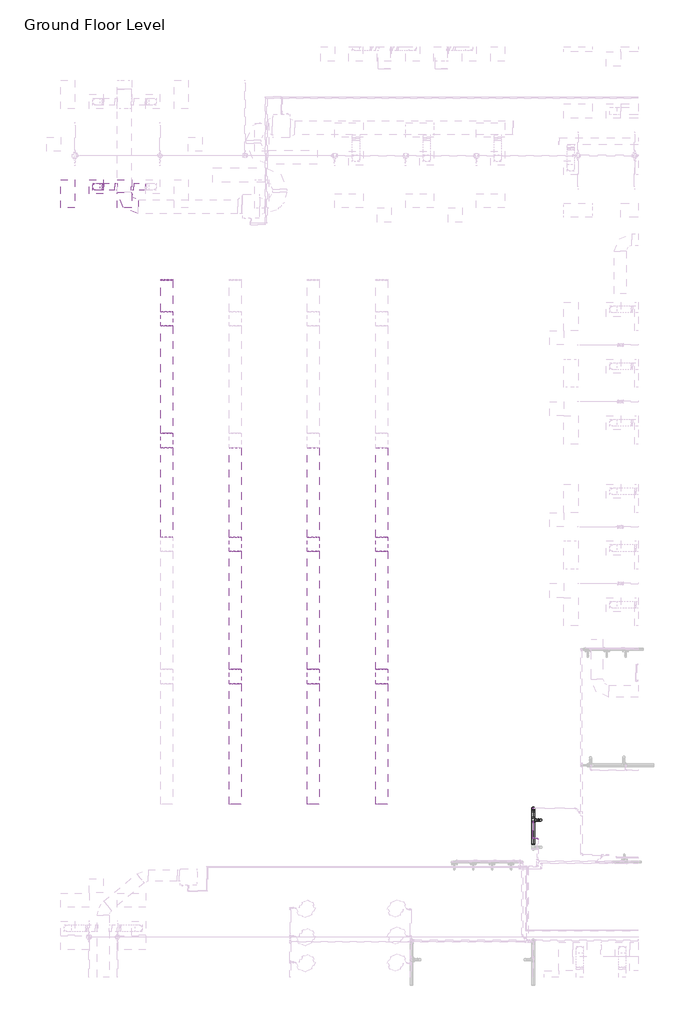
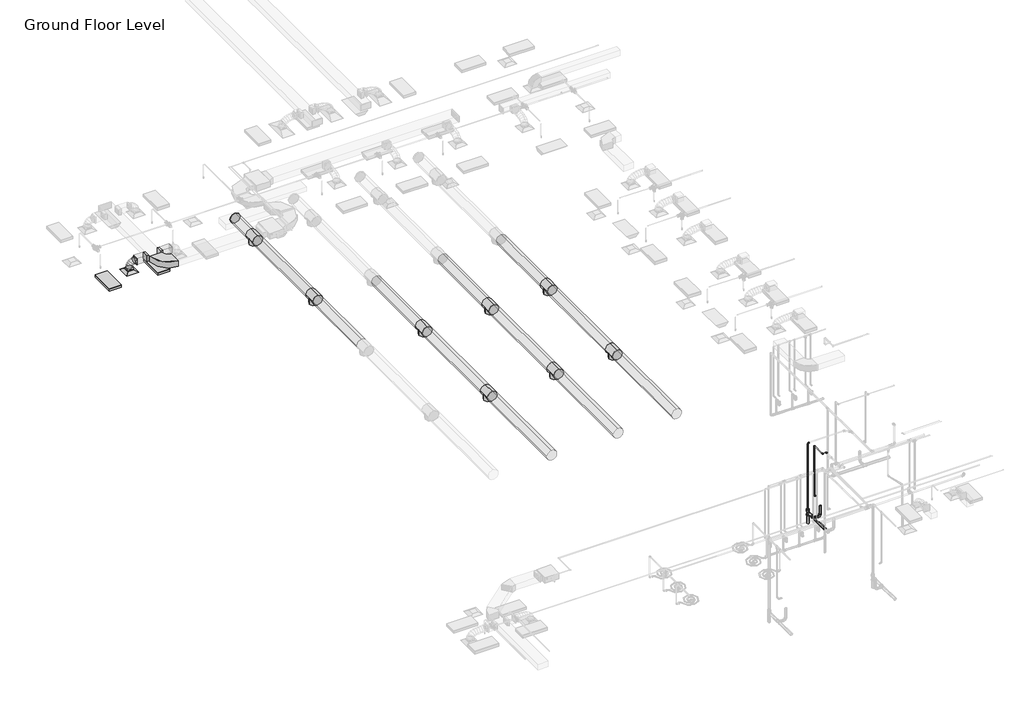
# One storey, part 9 of 74: 15 duct segments, 14 duct fittings, 11 pipe segments, 9 pipe fittings, 2 light fixtures, 1 air terminal.
"""IFC4 building model written with IfcOpenShell, lengths in millimetres."""

from ifc_helpers import new_model, si_unit, point, frame, frame_2d, origin, place, context, project, spatial, polyline, circle_curve, ellipse_curve, trimmed, segment, composite_curve, outline, extrude, transform, mapped, element, save
from ifc_brep_helpers import plane_surface, cylinder_surface, advanced_brep
from components import m_return_diffuser_600_x_600_face_300_x_300_connection_ff221211, m_rectangular_elbow_radius_1_w_c6ed0251, m_rectangular_takeoff_standard_cb0ccb98, m_rectangular_takeoff_standard_2be5eba1, m_rectangular_to_round_transition_angle_45_degree_641efff0, m_round_endcap_standard_1c45c55c, m_round_tee_standard_ed589d36, m_troffer_light_parabolic_rectangular1_0600x1200mm_4_lamp_86473d4a, m_bend_pvc_sch_40_dwv_standard_a4b99d37, m_bend_pvc_sch_40_dwv_standard_aca7b112, m_reducer_pvc_sch_40_dwv_standard_19331f3d, m_tee_reducing_sanitary_pvc_sch_40_dwv_standard_b49161a9, m_tee_reducing_sanitary_pvc_sch_40_dwv_standard_749dcb00, standard_517a5a8d

model = new_model("IFC4")

# Units and contexts
model_context = context("Model", 3, world=origin())
ifc_project = project(units=[si_unit("LENGTHUNIT", "METRE", prefix="MILLI")], contexts=[model_context])

# Site, building, storey
site = spatial("IfcSite", under=ifc_project)
building = spatial("IfcBuilding", under=site)
storey = spatial("IfcBuildingStorey", under=building, Name="Ground Floor Level", Elevation=900.0)

# Air terminal
placement = place(None, origin())
m_return_diffuser_600_x_600_face_300_x_300_connection_shape = m_return_diffuser_600_x_600_face_300_x_300_connection_ff221211(model_context)
element("IfcAirTerminal", 1, ObjectType="M_Supply Diffuser : 600 x 600 Face 300 x 300 Connection", at=placement, inside=storey, context=model_context, shape_type="MappedRepresentation", body=[
    mapped(m_return_diffuser_600_x_600_face_300_x_300_connection_shape, transform((-19137.2327605, -4264.7846466, 3650.0), x_axis=(1.0, 0.0, 0.0), y_axis=(0.0, 1.0, 0.0), z_axis=(0.0, 0.0, 1.0))),
])

# Duct fittings
m_rectangular_elbow_radius_1_w_shape = m_rectangular_elbow_radius_1_w_c6ed0251(model_context)
element("IfcDuctFitting", 2, ObjectType="M_Rectangular Elbow - Radius : 1 W", at=placement, inside=storey, context=model_context, shape_type="MappedRepresentation", body=[
    mapped(m_rectangular_elbow_radius_1_w_shape, transform((-17948.0331707, -5111.2846466, 4099.9999574), x_axis=(0.0, -0.999999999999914, -4.1482844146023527e-07), y_axis=(0.9999999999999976, 0.0, 7.102056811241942e-08), z_axis=(-7.102056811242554e-08, -4.1482844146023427e-07, 0.9999999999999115))),
])
m_rectangular_takeoff_standard_shape = m_rectangular_takeoff_standard_cb0ccb98(model_context)
element("IfcDuctFitting", 3, ObjectType="M_Rectangular Takeoff : Standard", at=placement, inside=storey, context=model_context, shape_type="MappedRepresentation", body=[
    mapped(m_rectangular_takeoff_standard_shape, transform((-18248.0331707, -4264.7846466, 4100.0003085), x_axis=(-1.0, 0.0, 0.0), y_axis=(0.0, 1.0, 0.0), z_axis=(0.0, 0.0, -1.0))),
])
m_rectangular_takeoff_standard_2_shape = m_rectangular_takeoff_standard_2be5eba1(model_context)
element("IfcDuctFitting", 4, ObjectType="M_Rectangular Takeoff : Standard", at=placement, inside=storey, context=model_context, shape_type="MappedRepresentation", body=[
    mapped(m_rectangular_takeoff_standard_2_shape, transform((-17648.0331707, -4264.7846466, 4100.0003085), x_axis=(1.0, 0.0, 0.0), y_axis=(0.0, -1.0, 0.0), z_axis=(0.0, 0.0, -1.0))),
])
m_rectangular_to_round_transition_angle_45_degree_shape = m_rectangular_to_round_transition_angle_45_degree_641efff0(model_context)
element("IfcDuctFitting", 5, ObjectType="M_Rectangular to Round Transition - Angle : 45 Degree", at=placement, inside=storey, context=model_context, shape_type="MappedRepresentation", body=[
    mapped(m_rectangular_to_round_transition_angle_45_degree_shape, transform((-19137.2327605, -4264.7846466, 3751.6), x_axis=(0.0, 0.0, 1.0), y_axis=(-1.0, 0.0, 0.0), z_axis=(0.0, -1.0, 0.0))),
])
element("IfcDuctFitting", 6, ObjectType="M_Rectangular to Round Transition - Angle : 45 Degree", at=placement, inside=storey, context=model_context, shape_type="MappedRepresentation", body=[
    mapped(m_rectangular_to_round_transition_angle_45_degree_shape, transform((-18809.8971378, -4264.7846466, 4100.0003085), x_axis=(-1.0, 0.0, 0.0), y_axis=(0.0, -1.0, 0.0), z_axis=(0.0, 0.0, 1.0))),
])
m_round_endcap_standard_shape = m_round_endcap_standard_1c45c55c(model_context)
element("IfcDuctFitting", 7, ObjectType="M_Round Endcap : Standard", at=placement, inside=storey, context=model_context, shape_type="MappedRepresentation", body=[
    mapped(m_round_endcap_standard_shape, transform((-16150.3527512, -8221.0125677, 7765.9), x_axis=(0.0, 0.9999999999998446, -5.576948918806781e-07), y_axis=(-1.0000000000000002, 0.0, 0.0), z_axis=(0.0, 5.576948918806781e-07, 0.9999999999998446))),
])
m_round_tee_standard_shape = m_round_tee_standard_ed589d36(model_context)
element("IfcDuctFitting", 8, ObjectType="M_Round Tee : Standard", at=placement, inside=storey, context=model_context, shape_type="MappedRepresentation", body=[
    mapped(m_round_tee_standard_shape, transform((-16150.3527512, -9864.7844235, 7765.9009947), x_axis=(0.0, 0.9999999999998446, -5.576948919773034e-07), y_axis=(0.0, 5.576948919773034e-07, 0.9999999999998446), z_axis=(1.0, 0.0, 0.0))),
])
element("IfcDuctFitting", 9, ObjectType="M_Round Tee : Standard", at=placement, inside=storey, context=model_context, shape_type="MappedRepresentation", body=[
    mapped(m_round_tee_standard_shape, transform((-16150.3527512, -15012.784348, 7765.9038657), x_axis=(0.0, 0.9999999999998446, -5.576948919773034e-07), y_axis=(0.0, 5.576948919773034e-07, 0.9999999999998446), z_axis=(1.0, 0.0, 0.0))),
])
element("IfcDuctFitting", 10, ObjectType="M_Round Tee : Standard", at=placement, inside=storey, context=model_context, shape_type="MappedRepresentation", body=[
    mapped(m_round_tee_standard_shape, transform((-13250.3527512, -19404.784563, 7765.9063151), x_axis=(0.0, 0.9999999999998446, -5.576948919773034e-07), y_axis=(0.0, 5.576948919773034e-07, 0.9999999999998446), z_axis=(1.0, 0.0, 0.0))),
])
element("IfcDuctFitting", 11, ObjectType="M_Round Tee : Standard", at=placement, inside=storey, context=model_context, shape_type="MappedRepresentation", body=[
    mapped(m_round_tee_standard_shape, transform((-13250.3527512, -25004.784563, 7765.9094382), x_axis=(0.0, 0.9999999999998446, -5.576948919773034e-07), y_axis=(0.0, 5.576948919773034e-07, 0.9999999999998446), z_axis=(1.0, 0.0, 0.0))),
])
element("IfcDuctFitting", 12, ObjectType="M_Round Tee : Standard", at=placement, inside=storey, context=model_context, shape_type="MappedRepresentation", body=[
    mapped(m_round_tee_standard_shape, transform((-9950.3527512, -19404.784563, 7765.9063151), x_axis=(0.0, 0.9999999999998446, -5.576948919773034e-07), y_axis=(0.0, 5.576948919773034e-07, 0.9999999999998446), z_axis=(1.0, 0.0, 0.0))),
])
element("IfcDuctFitting", 13, ObjectType="M_Round Tee : Standard", at=placement, inside=storey, context=model_context, shape_type="MappedRepresentation", body=[
    mapped(m_round_tee_standard_shape, transform((-9950.3527512, -25004.784563, 7765.9094382), x_axis=(0.0, 0.9999999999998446, -5.576948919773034e-07), y_axis=(0.0, 5.576948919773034e-07, 0.9999999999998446), z_axis=(1.0, 0.0, 0.0))),
])
element("IfcDuctFitting", 14, ObjectType="M_Round Tee : Standard", at=placement, inside=storey, context=model_context, shape_type="MappedRepresentation", body=[
    mapped(m_round_tee_standard_shape, transform((-7050.3527512, -19404.784563, 7765.9063151), x_axis=(0.0, 0.9999999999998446, -5.576948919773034e-07), y_axis=(0.0, 5.576948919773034e-07, 0.9999999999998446), z_axis=(1.0, 0.0, 0.0))),
])
element("IfcDuctFitting", 15, ObjectType="M_Round Tee : Standard", at=placement, inside=storey, context=model_context, shape_type="MappedRepresentation", body=[
    mapped(m_round_tee_standard_shape, transform((-7050.3527512, -25004.784563, 7765.9094382), x_axis=(0.0, 0.9999999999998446, -5.576948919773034e-07), y_axis=(0.0, 5.576948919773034e-07, 0.9999999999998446), z_axis=(1.0, 0.0, 0.0))),
])

# Duct segments
element("IfcDuctSegment", 16, ObjectType="Flex - Round", at=placement, inside=storey, context=model_context, shape_type="AdvancedBrep", body=[
    advanced_brep(
    [(-18987.2327605, -4264.7846466, 3826.6), (-19137.2327605, -4414.7846466, 3826.6), (-19287.2327605, -4264.7846466, 3826.6), (-19137.2327605, -4114.7846466, 3826.6), (-18987.2327605, -4264.7846466, 3832.5806494), (-19137.2327605, -4414.7846466, 3854.3870846), (-19287.2327605, -4264.7846466, 3876.1935198), (-19137.2327605, -4114.7846466, 3854.3870846), (-18983.2864584, -4264.7846466, 3845.866521), (-19122.8954468, -4414.7846466, 3902.6559964), (-19262.5044353, -4264.7846466, 3959.4454718), (-19122.8954468, -4114.7846466, 3902.6559964), (-18960.1038556, -4264.7846466, 3889.9713348), (-19084.1273946, -4414.7846466, 3976.4120685), (-19208.1509336, -4264.7846466, 4062.8528022), (-19084.1273946, -4114.7846466, 3976.4120685), (-18929.3324827, -4264.7846466, 3924.1186367), (-19027.2944369, -4414.7846466, 4039.4801732), (-19125.2563911, -4264.7846466, 4154.8417097), (-19027.2944369, -4114.7846466, 4039.4801732), (-18889.6598286, -4264.7846466, 3949.5853148), (-18958.7624069, -4414.7846466, 4083.4722675), (-19027.8649852, -4264.7846466, 4217.3592203), (-18958.7624069, -4114.7846466, 4083.4722675), (-18888.6275862, -4264.7846466, 3950.0003085), (-18917.6510814, -4414.7846466, 4100.0003085), (-18946.6745767, -4264.7846466, 4250.0003085), (-18917.6510814, -4114.7846466, 4100.0003085), (-18884.8971378, -4264.7846466, 3950.0003085), (-18884.8971378, -4114.7846466, 4100.0003085), (-18884.8971378, -4264.7846466, 4250.0003085), (-18884.8971378, -4414.7846466, 4100.0003085)],
    [
        (0, 1, circle_curve(frame((-19137.2327605, -4264.7846466, 3826.6), z_axis=(0.0, 0.0, -1.0), x_axis=(1.0, 0.0, 0.0)), 150.0)),
        (1, 2, circle_curve(frame((-19137.2327605, -4264.7846466, 3826.6), z_axis=(0.0, 0.0, -1.0), x_axis=(1.0, 0.0, 0.0)), 150.0)),
        (2, 3, circle_curve(frame((-19137.2327605, -4264.7846466, 3826.6), z_axis=(0.0, 0.0, -1.0), x_axis=(1.0, 0.0, 0.0)), 150.0)),
        (3, 0, circle_curve(frame((-19137.2327605, -4264.7846466, 3826.6), z_axis=(0.0, 0.0, -1.0), x_axis=(1.0, 0.0, 0.0)), 150.0)),
        (0, 4),
        (4, 5, ellipse_curve(frame((-19137.2327605, -4264.7846466, 3854.3870846), z_axis=(-0.14386395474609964, 0.0, -0.9895974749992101), x_axis=(0.9895974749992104, 0.0, -0.14386395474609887)), 151.5767813, 150.0)),
        (5, 1),
        (5, 6, ellipse_curve(frame((-19137.2327605, -4264.7846466, 3854.3870846), z_axis=(-0.14386395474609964, 0.0, -0.9895974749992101), x_axis=(0.9895974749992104, 0.0, -0.14386395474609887)), 151.5767813, 150.0)),
        (6, 2),
        (6, 7, ellipse_curve(frame((-19137.2327605, -4264.7846466, 3854.3870846), z_axis=(-0.14386395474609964, 0.0, -0.9895974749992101), x_axis=(0.9895974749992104, 0.0, -0.14386395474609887)), 151.5767813, 150.0)),
        (7, 3),
        (7, 4, ellipse_curve(frame((-19137.2327605, -4264.7846466, 3854.3870846), z_axis=(-0.14386395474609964, 0.0, -0.9895974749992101), x_axis=(0.9895974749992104, 0.0, -0.14386395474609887)), 151.5767813, 150.0)),
        (4, 8),
        (8, 9, ellipse_curve(frame((-19122.8954468, -4264.7846466, 3902.6559964), z_axis=(-0.376794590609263, 0.0, -0.9262968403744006), x_axis=(0.9262968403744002, 0.0, -0.37679459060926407)), 150.717332, 150.0)),
        (9, 5),
        (9, 10, ellipse_curve(frame((-19122.8954468, -4264.7846466, 3902.6559964), z_axis=(-0.376794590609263, 0.0, -0.9262968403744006), x_axis=(0.9262968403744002, 0.0, -0.37679459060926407)), 150.717332, 150.0)),
        (10, 6),
        (10, 11, ellipse_curve(frame((-19122.8954468, -4264.7846466, 3902.6559964), z_axis=(-0.376794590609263, 0.0, -0.9262968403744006), x_axis=(0.9262968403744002, 0.0, -0.37679459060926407)), 150.717332, 150.0)),
        (11, 7),
        (11, 8, ellipse_curve(frame((-19122.8954468, -4264.7846466, 3902.6559964), z_axis=(-0.376794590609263, 0.0, -0.9262968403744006), x_axis=(0.9262968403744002, 0.0, -0.37679459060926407)), 150.717332, 150.0)),
        (8, 12),
        (12, 13, ellipse_curve(frame((-19084.1273946, -4264.7846466, 3976.4120685), z_axis=(-0.5717930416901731, 0.0, -0.8203979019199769), x_axis=(0.8203979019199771, 0.0, -0.5717930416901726)), 151.1748612, 150.0)),
        (13, 9),
        (13, 14, ellipse_curve(frame((-19084.1273946, -4264.7846466, 3976.4120685), z_axis=(-0.5717930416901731, 0.0, -0.8203979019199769), x_axis=(0.8203979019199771, 0.0, -0.5717930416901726)), 151.1748612, 150.0)),
        (14, 10),
        (14, 15, ellipse_curve(frame((-19084.1273946, -4264.7846466, 3976.4120685), z_axis=(-0.5717930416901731, 0.0, -0.8203979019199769), x_axis=(0.8203979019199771, 0.0, -0.5717930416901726)), 151.1748612, 150.0)),
        (15, 11),
        (15, 12, ellipse_curve(frame((-19084.1273946, -4264.7846466, 3976.4120685), z_axis=(-0.5717930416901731, 0.0, -0.8203979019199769), x_axis=(0.8203979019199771, 0.0, -0.5717930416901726)), 151.1748612, 150.0)),
        (12, 16),
        (16, 17, ellipse_curve(frame((-19027.2944369, -4264.7846466, 4039.4801732), z_axis=(-0.7622501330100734, 0.0, -0.6472825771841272), x_axis=(0.6472825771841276, 0.0, -0.7622501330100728)), 151.3434127, 150.0)),
        (17, 13),
        (17, 18, ellipse_curve(frame((-19027.2944369, -4264.7846466, 4039.4801732), z_axis=(-0.7622501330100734, 0.0, -0.6472825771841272), x_axis=(0.6472825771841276, 0.0, -0.7622501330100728)), 151.3434127, 150.0)),
        (18, 14),
        (18, 19, ellipse_curve(frame((-19027.2944369, -4264.7846466, 4039.4801732), z_axis=(-0.7622501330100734, 0.0, -0.6472825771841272), x_axis=(0.6472825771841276, 0.0, -0.7622501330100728)), 151.3434127, 150.0)),
        (19, 15),
        (19, 16, ellipse_curve(frame((-19027.2944369, -4264.7846466, 4039.4801732), z_axis=(-0.7622501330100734, 0.0, -0.6472825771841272), x_axis=(0.6472825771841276, 0.0, -0.7622501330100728)), 151.3434127, 150.0)),
        (16, 20),
        (20, 21, ellipse_curve(frame((-18958.7624069, -4264.7846466, 4083.4722675), z_axis=(-0.8886216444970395, 0.0, -0.45864100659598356), x_axis=(0.45864100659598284, 0.0, -0.88862164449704)), 150.6681202, 150.0)),
        (21, 17),
        (21, 22, ellipse_curve(frame((-18958.7624069, -4264.7846466, 4083.4722675), z_axis=(-0.8886216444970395, 0.0, -0.45864100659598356), x_axis=(0.45864100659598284, 0.0, -0.88862164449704)), 150.6681202, 150.0)),
        (22, 18),
        (22, 23, ellipse_curve(frame((-18958.7624069, -4264.7846466, 4083.4722675), z_axis=(-0.8886216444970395, 0.0, -0.45864100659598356), x_axis=(0.45864100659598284, 0.0, -0.88862164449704)), 150.6681202, 150.0)),
        (23, 19),
        (23, 20, ellipse_curve(frame((-18958.7624069, -4264.7846466, 4083.4722675), z_axis=(-0.8886216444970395, 0.0, -0.45864100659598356), x_axis=(0.45864100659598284, 0.0, -0.88862164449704)), 150.6681202, 150.0)),
        (20, 24),
        (24, 25, ellipse_curve(frame((-18917.6510814, -4264.7846466, 4100.0003085), z_axis=(-0.9817905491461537, 0.0, -0.18996662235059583), x_axis=(0.18996662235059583, 0.0, -0.9817905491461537)), 152.7820777, 150.0)),
        (25, 21),
        (25, 26, ellipse_curve(frame((-18917.6510814, -4264.7846466, 4100.0003085), z_axis=(-0.9817905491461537, 0.0, -0.18996662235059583), x_axis=(0.18996662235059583, 0.0, -0.9817905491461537)), 152.7820777, 150.0)),
        (26, 22),
        (26, 27, ellipse_curve(frame((-18917.6510814, -4264.7846466, 4100.0003085), z_axis=(-0.9817905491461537, 0.0, -0.18996662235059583), x_axis=(0.18996662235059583, 0.0, -0.9817905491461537)), 152.7820777, 150.0)),
        (27, 23),
        (27, 24, ellipse_curve(frame((-18917.6510814, -4264.7846466, 4100.0003085), z_axis=(-0.9817905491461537, 0.0, -0.18996662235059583), x_axis=(0.18996662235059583, 0.0, -0.9817905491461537)), 152.7820777, 150.0)),
        (28, 29, circle_curve(frame((-18884.8971378, -4264.7846466, 4100.0003085), z_axis=(1.0, 0.0, 0.0), x_axis=(0.0, 0.0, -1.0)), 150.0)),
        (29, 30, circle_curve(frame((-18884.8971378, -4264.7846466, 4100.0003085), z_axis=(1.0, 0.0, 0.0), x_axis=(0.0, 0.0, -1.0)), 150.0)),
        (30, 31, circle_curve(frame((-18884.8971378, -4264.7846466, 4100.0003085), z_axis=(1.0, 0.0, 0.0), x_axis=(0.0, 0.0, -1.0)), 150.0)),
        (31, 28, circle_curve(frame((-18884.8971378, -4264.7846466, 4100.0003085), z_axis=(1.0, 0.0, 0.0), x_axis=(0.0, 0.0, -1.0)), 150.0)),
        (24, 28),
        (31, 25),
        (30, 26),
        (29, 27),
    ],
    [
        plane_surface(frame((-19137.2327605, -4414.7846466, 3826.6), z_axis=(0.0, 0.0, -1.0), x_axis=(1.0, 0.0, 0.0))),
        cylinder_surface(frame((-19137.2327605, -4264.7846466, 3826.6), z_axis=(0.0, 0.0, -1.0), x_axis=(1.0, 0.0, 0.0)), 150.0),
        cylinder_surface(frame((-19137.2327605, -4264.7846466, 3854.3870846), z_axis=(-0.28473481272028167, 0.0, -0.9586063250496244), x_axis=(0.9586063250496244, 0.0, -0.28473481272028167)), 150.0),
        cylinder_surface(frame((-19122.8954468, -4264.7846466, 3902.6559964), z_axis=(-0.4652676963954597, 0.0, -0.8851700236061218), x_axis=(0.8851700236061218, 0.0, -0.4652676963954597)), 150.0),
        cylinder_surface(frame((-19084.1273946, -4264.7846466, 3976.4120685), z_axis=(-0.6694309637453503, 0.0, -0.7428742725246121), x_axis=(0.7428742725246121, 0.0, -0.6694309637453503)), 150.0),
        cylinder_surface(frame((-19027.2944369, -4264.7846466, 4039.4801732), z_axis=(-0.8415369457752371, 0.0, -0.5401995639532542), x_axis=(0.5401995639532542, 0.0, -0.8415369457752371)), 150.0),
        cylinder_surface(frame((-18958.7624069, -4264.7846466, 4083.4722675), z_axis=(-0.9278253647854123, 0.0, -0.37301486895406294), x_axis=(0.37301486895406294, 0.0, -0.9278253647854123)), 150.0),
        plane_surface(frame((-18884.8971378, -4264.7846466, 3950.0003085), z_axis=(1.0, 0.0, 0.0), x_axis=(0.0, 1.0, 0.0))),
        cylinder_surface(frame((-18917.6510814, -4264.7846466, 4100.0003085), z_axis=(-1.0, 0.0, 0.0), x_axis=(0.0, 0.0, -1.0)), 150.0),
    ],
    [
        (0, [[1, 2, 3, 4]]),
        (1, [[-1, 5, 6, 7]]),
        (1, [[-2, -7, 8, 9]]),
        (1, [[-3, -9, 10, 11]]),
        (1, [[-4, -11, 12, -5]]),
        (2, [[-6, 13, 14, 15]]),
        (2, [[-8, -15, 16, 17]]),
        (2, [[-10, -17, 18, 19]]),
        (2, [[-12, -19, 20, -13]]),
        (3, [[-14, 21, 22, 23]]),
        (3, [[-16, -23, 24, 25]]),
        (3, [[-18, -25, 26, 27]]),
        (3, [[-20, -27, 28, -21]]),
        (4, [[-22, 29, 30, 31]]),
        (4, [[-24, -31, 32, 33]]),
        (4, [[-26, -33, 34, 35]]),
        (4, [[-28, -35, 36, -29]]),
        (5, [[-30, 37, 38, 39]]),
        (5, [[-32, -39, 40, 41]]),
        (5, [[-34, -41, 42, 43]]),
        (5, [[-36, -43, 44, -37]]),
        (6, [[-38, 45, 46, 47]]),
        (6, [[-40, -47, 48, 49]]),
        (6, [[-42, -49, 50, 51]]),
        (6, [[-44, -51, 52, -45]]),
        (7, [[53, 54, 55, 56]]),
        (8, [[-46, 57, -56, 58]]),
        (8, [[-48, -58, -55, 59]]),
        (8, [[-50, -59, -54, 60]]),
        (8, [[-52, -60, -53, -57]]),
    ],
),
])
element("IfcDuctSegment", 17, ObjectType="Radius Elbows / Taps", at=placement, inside=storey, context=model_context, shape_type="SweptSolid", body=[
    extrude(outline(polyline([(-17546.4331707, -4414.7846466), (-17546.4331707, -4114.7846466), (-17064.5683833, -4114.7846466), (-17064.5683833, -4414.7846466), (-17546.4331707, -4414.7846466)])), frame((0.0, 0.0, 3950.0003085), z_axis=(0.0, 0.0, 1.0), x_axis=(1.0, 0.0, 0.0)), (0.0, 0.0, 1.0), 300.0),
])
element("IfcDuctSegment", 18, ObjectType="Radius Elbows / Taps", at=placement, inside=storey, context=model_context, shape_type="SweptSolid", body=[
    extrude(outline(polyline([(-18349.6331707, -4114.7846466), (-18349.6331707, -4414.7846466), (-18809.8971378, -4414.7846466), (-18809.8971378, -4114.7846466), (-18349.6331707, -4114.7846466)])), frame((0.0, 0.0, 3950.0003085), z_axis=(0.0, 0.0, 1.0), x_axis=(1.0, 0.0, 0.0)), (0.0, 0.0, 1.0), 300.0),
])
element("IfcDuctSegment", 19, ObjectType="Tees", at=placement, inside=storey, context=model_context, shape_type="SweptSolid", body=[
    extrude(outline(composite_curve([segment(trimmed(circle_curve(frame_2d((7765.9008274, -16150.3527512)), 250.0), [point((7765.9008274, -16400.3527512))], [point((7515.9008274, -16150.3527512))], False, "CARTESIAN"), True, "CONTINUOUS"), segment(trimmed(circle_curve(frame_2d((7765.9008274, -16150.3527512)), 250.0), [point((7515.9008274, -16150.3527512))], [point((7765.9008274, -15900.3527512))], False, "CARTESIAN"), True, "CONTINUOUS"), segment(trimmed(circle_curve(frame_2d((7765.9008274, -16150.3527512)), 250.0), [point((7765.9008274, -15900.3527512))], [point((8015.9008274, -16150.3527512))], False, "CARTESIAN"), True, "CONTINUOUS"), segment(trimmed(circle_curve(frame_2d((7765.9008274, -16150.3527512)), 250.0), [point((8015.9008274, -16150.3527512))], [point((7765.9008274, -16400.3527512))], False, "CARTESIAN"), True, "CONTINUOUS")], self_intersect=False)), frame((0.0, -9564.7844235, 0.0), z_axis=(0.0, 1.0, 0.0), x_axis=(0.0, 0.0, 1.0)), (0.0, 0.0, 1.0), 1343.7718558),
])
element("IfcDuctSegment", 20, ObjectType="Tees", at=placement, inside=storey, context=model_context, shape_type="SweptSolid", body=[
    extrude(outline(composite_curve([segment(trimmed(circle_curve(frame_2d((7765.901162, -16150.3527512)), 250.0), [point((7765.901162, -16400.3527512))], [point((7515.901162, -16150.3527512))], False, "CARTESIAN"), True, "CONTINUOUS"), segment(trimmed(circle_curve(frame_2d((7765.901162, -16150.3527512)), 250.0), [point((7515.901162, -16150.3527512))], [point((7765.901162, -15900.3527512))], False, "CARTESIAN"), True, "CONTINUOUS"), segment(trimmed(circle_curve(frame_2d((7765.901162, -16150.3527512)), 250.0), [point((7765.901162, -15900.3527512))], [point((8015.901162, -16150.3527512))], False, "CARTESIAN"), True, "CONTINUOUS"), segment(trimmed(circle_curve(frame_2d((7765.901162, -16150.3527512)), 250.0), [point((8015.901162, -16150.3527512))], [point((7765.901162, -16400.3527512))], False, "CARTESIAN"), True, "CONTINUOUS")], self_intersect=False)), frame((0.0, -14712.784348, 0.0), z_axis=(0.0, 1.0, 0.0), x_axis=(0.0, 0.0, 1.0)), (0.0, 0.0, 1.0), 4547.9999245),
])
element("IfcDuctSegment", 21, ObjectType="Tees", at=placement, inside=storey, context=model_context, shape_type="SweptSolid", body=[
    extrude(outline(composite_curve([segment(trimmed(circle_curve(frame_2d((7765.9061478, -16150.3527512)), 250.0), [point((7765.9061478, -15900.3527512))], [point((8015.9061478, -16150.3527512))], False, "CARTESIAN"), True, "CONTINUOUS"), segment(trimmed(circle_curve(frame_2d((7765.9061478, -16150.3527512)), 250.0), [point((8015.9061478, -16150.3527512))], [point((7765.9061478, -16400.3527512))], False, "CARTESIAN"), True, "CONTINUOUS"), segment(trimmed(circle_curve(frame_2d((7765.9061478, -16150.3527512)), 250.0), [point((7765.9061478, -16400.3527512))], [point((7515.9061478, -16150.3527512))], False, "CARTESIAN"), True, "CONTINUOUS"), segment(trimmed(circle_curve(frame_2d((7765.9061478, -16150.3527512)), 250.0), [point((7515.9061478, -16150.3527512))], [point((7765.9061478, -15900.3527512))], False, "CARTESIAN"), True, "CONTINUOUS")], self_intersect=False)), frame((0.0, -19104.784563, 0.0), z_axis=(0.0, 1.0, 0.0), x_axis=(0.0, 0.0, 1.0)), (0.0, 0.0, 1.0), 3792.000215),
])
element("IfcDuctSegment", 22, ObjectType="Tees", at=placement, inside=storey, context=model_context, shape_type="SweptSolid", body=[
    extrude(outline(composite_curve([segment(trimmed(circle_curve(frame_2d((7765.9061478, -13250.3527512)), 250.0), [point((7765.9061478, -13000.3527512))], [point((8015.9061478, -13250.3527512))], False, "CARTESIAN"), True, "CONTINUOUS"), segment(trimmed(circle_curve(frame_2d((7765.9061478, -13250.3527512)), 250.0), [point((8015.9061478, -13250.3527512))], [point((7765.9061478, -13500.3527512))], False, "CARTESIAN"), True, "CONTINUOUS"), segment(trimmed(circle_curve(frame_2d((7765.9061478, -13250.3527512)), 250.0), [point((7765.9061478, -13500.3527512))], [point((7515.9061478, -13250.3527512))], False, "CARTESIAN"), True, "CONTINUOUS"), segment(trimmed(circle_curve(frame_2d((7765.9061478, -13250.3527512)), 250.0), [point((7515.9061478, -13250.3527512))], [point((7765.9061478, -13000.3527512))], False, "CARTESIAN"), True, "CONTINUOUS")], self_intersect=False)), frame((0.0, -19104.784563, 0.0), z_axis=(0.0, 1.0, 0.0), x_axis=(0.0, 0.0, 1.0)), (0.0, 0.0, 1.0), 3792.000215),
])
element("IfcDuctSegment", 23, ObjectType="Tees", at=placement, inside=storey, context=model_context, shape_type="SweptSolid", body=[
    extrude(outline(composite_curve([segment(trimmed(circle_curve(frame_2d((7765.9092709, -13250.3527512)), 250.0), [point((7765.9092709, -13000.3527512))], [point((8015.9092709, -13250.3527512))], False, "CARTESIAN"), True, "CONTINUOUS"), segment(trimmed(circle_curve(frame_2d((7765.9092709, -13250.3527512)), 250.0), [point((8015.9092709, -13250.3527512))], [point((7765.9092709, -13500.3527512))], False, "CARTESIAN"), True, "CONTINUOUS"), segment(trimmed(circle_curve(frame_2d((7765.9092709, -13250.3527512)), 250.0), [point((7765.9092709, -13500.3527512))], [point((7515.9092709, -13250.3527512))], False, "CARTESIAN"), True, "CONTINUOUS"), segment(trimmed(circle_curve(frame_2d((7765.9092709, -13250.3527512)), 250.0), [point((7515.9092709, -13250.3527512))], [point((7765.9092709, -13000.3527512))], False, "CARTESIAN"), True, "CONTINUOUS")], self_intersect=False)), frame((0.0, -24704.784563, 0.0), z_axis=(0.0, 1.0, 0.0), x_axis=(0.0, 0.0, 1.0)), (0.0, 0.0, 1.0), 5000.0),
])
element("IfcDuctSegment", 24, ObjectType="Tees", at=placement, inside=storey, context=model_context, shape_type="SweptSolid", body=[
    extrude(outline(composite_curve([segment(trimmed(circle_curve(frame_2d((7765.9125, -13250.3527512)), 250.0), [point((7765.9125, -13000.3527512))], [point((8015.9125, -13250.3527512))], False, "CARTESIAN"), True, "CONTINUOUS"), segment(trimmed(circle_curve(frame_2d((7765.9125, -13250.3527512)), 250.0), [point((8015.9125, -13250.3527512))], [point((7765.9125, -13500.3527512))], False, "CARTESIAN"), True, "CONTINUOUS"), segment(trimmed(circle_curve(frame_2d((7765.9125, -13250.3527512)), 250.0), [point((7765.9125, -13500.3527512))], [point((7515.9125, -13250.3527512))], False, "CARTESIAN"), True, "CONTINUOUS"), segment(trimmed(circle_curve(frame_2d((7765.9125, -13250.3527512)), 250.0), [point((7515.9125, -13250.3527512))], [point((7765.9125, -13000.3527512))], False, "CARTESIAN"), True, "CONTINUOUS")], self_intersect=False)), frame((0.0, -30422.0587669, 0.0), z_axis=(0.0, 1.0, 0.0), x_axis=(0.0, 0.0, 1.0)), (0.0, 0.0, 1.0), 5117.2742039),
])
element("IfcDuctSegment", 25, ObjectType="Tees", at=placement, inside=storey, context=model_context, shape_type="SweptSolid", body=[
    extrude(outline(composite_curve([segment(trimmed(circle_curve(frame_2d((7765.9061478, -9950.3527512)), 250.0), [point((7765.9061478, -9700.3527512))], [point((8015.9061478, -9950.3527512))], False, "CARTESIAN"), True, "CONTINUOUS"), segment(trimmed(circle_curve(frame_2d((7765.9061478, -9950.3527512)), 250.0), [point((8015.9061478, -9950.3527512))], [point((7765.9061478, -10200.3527512))], False, "CARTESIAN"), True, "CONTINUOUS"), segment(trimmed(circle_curve(frame_2d((7765.9061478, -9950.3527512)), 250.0), [point((7765.9061478, -10200.3527512))], [point((7515.9061478, -9950.3527512))], False, "CARTESIAN"), True, "CONTINUOUS"), segment(trimmed(circle_curve(frame_2d((7765.9061478, -9950.3527512)), 250.0), [point((7515.9061478, -9950.3527512))], [point((7765.9061478, -9700.3527512))], False, "CARTESIAN"), True, "CONTINUOUS")], self_intersect=False)), frame((0.0, -19104.784563, 0.0), z_axis=(0.0, 1.0, 0.0), x_axis=(0.0, 0.0, 1.0)), (0.0, 0.0, 1.0), 3792.000215),
])
element("IfcDuctSegment", 26, ObjectType="Tees", at=placement, inside=storey, context=model_context, shape_type="SweptSolid", body=[
    extrude(outline(composite_curve([segment(trimmed(circle_curve(frame_2d((7765.9092709, -9950.3527512)), 250.0), [point((7765.9092709, -9700.3527512))], [point((8015.9092709, -9950.3527512))], False, "CARTESIAN"), True, "CONTINUOUS"), segment(trimmed(circle_curve(frame_2d((7765.9092709, -9950.3527512)), 250.0), [point((8015.9092709, -9950.3527512))], [point((7765.9092709, -10200.3527512))], False, "CARTESIAN"), True, "CONTINUOUS"), segment(trimmed(circle_curve(frame_2d((7765.9092709, -9950.3527512)), 250.0), [point((7765.9092709, -10200.3527512))], [point((7515.9092709, -9950.3527512))], False, "CARTESIAN"), True, "CONTINUOUS"), segment(trimmed(circle_curve(frame_2d((7765.9092709, -9950.3527512)), 250.0), [point((7515.9092709, -9950.3527512))], [point((7765.9092709, -9700.3527512))], False, "CARTESIAN"), True, "CONTINUOUS")], self_intersect=False)), frame((0.0, -24704.784563, 0.0), z_axis=(0.0, 1.0, 0.0), x_axis=(0.0, 0.0, 1.0)), (0.0, 0.0, 1.0), 5000.0),
])
element("IfcDuctSegment", 27, ObjectType="Tees", at=placement, inside=storey, context=model_context, shape_type="SweptSolid", body=[
    extrude(outline(composite_curve([segment(trimmed(circle_curve(frame_2d((7765.9125, -9950.3527512)), 250.0), [point((7765.9125, -9700.3527512))], [point((8015.9125, -9950.3527512))], False, "CARTESIAN"), True, "CONTINUOUS"), segment(trimmed(circle_curve(frame_2d((7765.9125, -9950.3527512)), 250.0), [point((8015.9125, -9950.3527512))], [point((7765.9125, -10200.3527512))], False, "CARTESIAN"), True, "CONTINUOUS"), segment(trimmed(circle_curve(frame_2d((7765.9125, -9950.3527512)), 250.0), [point((7765.9125, -10200.3527512))], [point((7515.9125, -9950.3527512))], False, "CARTESIAN"), True, "CONTINUOUS"), segment(trimmed(circle_curve(frame_2d((7765.9125, -9950.3527512)), 250.0), [point((7515.9125, -9950.3527512))], [point((7765.9125, -9700.3527512))], False, "CARTESIAN"), True, "CONTINUOUS")], self_intersect=False)), frame((0.0, -30422.0587669, 0.0), z_axis=(0.0, 1.0, 0.0), x_axis=(0.0, 0.0, 1.0)), (0.0, 0.0, 1.0), 5117.2742039),
])
element("IfcDuctSegment", 28, ObjectType="Tees", at=placement, inside=storey, context=model_context, shape_type="SweptSolid", body=[
    extrude(outline(composite_curve([segment(trimmed(circle_curve(frame_2d((7765.9061478, -7050.3527512)), 250.0), [point((7765.9061478, -6800.3527512))], [point((8015.9061478, -7050.3527512))], False, "CARTESIAN"), True, "CONTINUOUS"), segment(trimmed(circle_curve(frame_2d((7765.9061478, -7050.3527512)), 250.0), [point((8015.9061478, -7050.3527512))], [point((7765.9061478, -7300.3527512))], False, "CARTESIAN"), True, "CONTINUOUS"), segment(trimmed(circle_curve(frame_2d((7765.9061478, -7050.3527512)), 250.0), [point((7765.9061478, -7300.3527512))], [point((7515.9061478, -7050.3527512))], False, "CARTESIAN"), True, "CONTINUOUS"), segment(trimmed(circle_curve(frame_2d((7765.9061478, -7050.3527512)), 250.0), [point((7515.9061478, -7050.3527512))], [point((7765.9061478, -6800.3527512))], False, "CARTESIAN"), True, "CONTINUOUS")], self_intersect=False)), frame((0.0, -19104.784563, 0.0), z_axis=(0.0, 1.0, 0.0), x_axis=(0.0, 0.0, 1.0)), (0.0, 0.0, 1.0), 3792.000215),
])
element("IfcDuctSegment", 29, ObjectType="Tees", at=placement, inside=storey, context=model_context, shape_type="SweptSolid", body=[
    extrude(outline(composite_curve([segment(trimmed(circle_curve(frame_2d((7765.9092709, -7050.3527512)), 250.0), [point((7765.9092709, -6800.3527512))], [point((8015.9092709, -7050.3527512))], False, "CARTESIAN"), True, "CONTINUOUS"), segment(trimmed(circle_curve(frame_2d((7765.9092709, -7050.3527512)), 250.0), [point((8015.9092709, -7050.3527512))], [point((7765.9092709, -7300.3527512))], False, "CARTESIAN"), True, "CONTINUOUS"), segment(trimmed(circle_curve(frame_2d((7765.9092709, -7050.3527512)), 250.0), [point((7765.9092709, -7300.3527512))], [point((7515.9092709, -7050.3527512))], False, "CARTESIAN"), True, "CONTINUOUS"), segment(trimmed(circle_curve(frame_2d((7765.9092709, -7050.3527512)), 250.0), [point((7515.9092709, -7050.3527512))], [point((7765.9092709, -6800.3527512))], False, "CARTESIAN"), True, "CONTINUOUS")], self_intersect=False)), frame((0.0, -24704.784563, 0.0), z_axis=(0.0, 1.0, 0.0), x_axis=(0.0, 0.0, 1.0)), (0.0, 0.0, 1.0), 5000.0),
])
element("IfcDuctSegment", 30, ObjectType="Tees", at=placement, inside=storey, context=model_context, shape_type="SweptSolid", body=[
    extrude(outline(composite_curve([segment(trimmed(circle_curve(frame_2d((7765.9125, -7050.3527512)), 250.0), [point((7765.9125, -6800.3527512))], [point((8015.9125, -7050.3527512))], False, "CARTESIAN"), True, "CONTINUOUS"), segment(trimmed(circle_curve(frame_2d((7765.9125, -7050.3527512)), 250.0), [point((8015.9125, -7050.3527512))], [point((7765.9125, -7300.3527512))], False, "CARTESIAN"), True, "CONTINUOUS"), segment(trimmed(circle_curve(frame_2d((7765.9125, -7050.3527512)), 250.0), [point((7765.9125, -7300.3527512))], [point((7515.9125, -7050.3527512))], False, "CARTESIAN"), True, "CONTINUOUS"), segment(trimmed(circle_curve(frame_2d((7765.9125, -7050.3527512)), 250.0), [point((7515.9125, -7050.3527512))], [point((7765.9125, -6800.3527512))], False, "CARTESIAN"), True, "CONTINUOUS")], self_intersect=False)), frame((0.0, -30422.0587669, 0.0), z_axis=(0.0, 1.0, 0.0), x_axis=(0.0, 0.0, 1.0)), (0.0, 0.0, 1.0), 5117.2742039),
])

# Light fixtures
m_troffer_light_parabolic_rectangular1_0600x1200mm_4_lamp_shape = m_troffer_light_parabolic_rectangular1_0600x1200mm_4_lamp_86473d4a(model_context)
element("IfcLightFixture", 31, ObjectType="M_Troffer Light - Parabolic Rectangular1 : 0600x1200mm(4 Lamp) - 277V 2", at=placement, inside=storey, context=model_context, shape_type="MappedRepresentation", body=[
    mapped(m_troffer_light_parabolic_rectangular1_0600x1200mm_4_lamp_shape, transform((-20396.6986926, -4546.081145, 3650.0), x_axis=(0.0, 1.0, 0.0), y_axis=(-1.0, 0.0, 0.0), z_axis=(0.0, 0.0, 1.0))),
])
element("IfcLightFixture", 32, ObjectType="M_Troffer Light - Parabolic Rectangular1 : 0600x1200mm(4 Lamp) - 277V 2", at=placement, inside=storey, context=model_context, shape_type="MappedRepresentation", body=[
    mapped(m_troffer_light_parabolic_rectangular1_0600x1200mm_4_lamp_shape, transform((-17996.6986926, -4546.081145, 3650.0), x_axis=(0.0, 1.0, 0.0), y_axis=(-1.0, 0.0, 0.0), z_axis=(0.0, 0.0, 1.0))),
])

# Pipe fittings
m_bend_pvc_sch_40_dwv_standard_shape = m_bend_pvc_sch_40_dwv_standard_a4b99d37(model_context)
element("IfcPipeFitting", 33, ObjectType="M_Bend - PVC - Sch 40 - DWV : Standard", at=placement, inside=storey, context=model_context, shape_type="MappedRepresentation", body=[
    mapped(m_bend_pvc_sch_40_dwv_standard_shape, transform((-313.6900632, -31081.5465789, 464.3982101), x_axis=(0.0, 0.0, -1.0), y_axis=(-1.0, 0.0, 0.0), z_axis=(0.0, 1.0, 0.0))),
])
m_bend_pvc_sch_40_dwv_standard_2_shape = m_bend_pvc_sch_40_dwv_standard_aca7b112(model_context)
element("IfcPipeFitting", 34, ObjectType="M_Bend - PVC - Sch 40 - DWV : Standard", at=placement, inside=storey, context=model_context, shape_type="MappedRepresentation", body=[
    mapped(m_bend_pvc_sch_40_dwv_standard_2_shape, transform((-633.5363684, -30581.7541446, 4084.0463877), x_axis=(0.0, 0.0, 1.0), y_axis=(1.0, 0.0, 0.0), z_axis=(0.0, 1.0, 0.0))),
])
m_reducer_pvc_sch_40_dwv_standard_shape = m_reducer_pvc_sch_40_dwv_standard_19331f3d(model_context)
element("IfcPipeFitting", 35, ObjectType="M_Reducer - PVC - Sch 40 - DWV : Standard", at=placement, inside=storey, context=model_context, shape_type="MappedRepresentation", body=[
    mapped(m_reducer_pvc_sch_40_dwv_standard_shape, transform((-633.5600391, -30581.725568, 578.5642409), x_axis=(0.0, 0.0, 1.0), y_axis=(0.0, 1.0, 0.0), z_axis=(-1.0, 0.0, 0.0))),
])
m_tee_reducing_sanitary_pvc_sch_40_dwv_standard_shape = m_tee_reducing_sanitary_pvc_sch_40_dwv_standard_b49161a9(model_context)
element("IfcPipeFitting", 36, ObjectType="M_Tee Reducing Sanitary - PVC - Sch 40 - DWV : Standard", at=placement, inside=storey, context=model_context, shape_type="MappedRepresentation", body=[
    mapped(m_tee_reducing_sanitary_pvc_sch_40_dwv_standard_shape, transform((-633.5600391, -31081.5465789, 464.3982101), x_axis=(0.0, -0.9999500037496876, 0.009999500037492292), y_axis=(-1.0, 0.0, 0.0), z_axis=(0.0, -0.009999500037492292, -0.9999500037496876))),
])
m_tee_reducing_sanitary_pvc_sch_40_dwv_standard_2_shape = m_tee_reducing_sanitary_pvc_sch_40_dwv_standard_749dcb00(model_context)
element("IfcPipeFitting", 37, ObjectType="M_Tee Reducing Sanitary - PVC - Sch 40 - DWV : Standard", at=placement, inside=storey, context=model_context, shape_type="MappedRepresentation", body=[
    mapped(m_tee_reducing_sanitary_pvc_sch_40_dwv_standard_2_shape, transform((-633.5600391, -30581.725568, 459.4), x_axis=(0.0, 0.0, 1.0), y_axis=(0.0, 1.0, 0.0), z_axis=(-1.0, 0.0, 0.0))),
])
standard_shape = standard_517a5a8d(model_context)
element("IfcPipeFitting", 38, ObjectType="M_Elbow - CPVC - Sch 40 : Standard", at=placement, inside=storey, context=model_context, shape_type="MappedRepresentation", body=[
    mapped(standard_shape, transform((-647.2327605, -31154.9853451, 1655.0), x_axis=(-1.0, 0.0, 0.0), y_axis=(0.0, 0.0, 1.0), z_axis=(0.0, 1.0, 0.0))),
])
element("IfcPipeFitting", 39, ObjectType="M_Elbow - CPVC - Sch 40 : Standard", at=placement, inside=storey, context=model_context, shape_type="MappedRepresentation", body=[
    mapped(standard_shape, transform((-647.2327605, -31154.9853451, 4300.0), x_axis=(0.0, 0.0, 1.0), y_axis=(0.0, -1.0, 0.0), z_axis=(1.0, 0.0, 0.0))),
])
element("IfcPipeFitting", 40, ObjectType="M_Elbow - CPVC - Sch 40 : Standard", at=placement, inside=storey, context=model_context, shape_type="MappedRepresentation", body=[
    mapped(standard_shape, transform((-647.2327605, -31854.9853451, 4300.0), x_axis=(0.0, -1.0, 0.0), y_axis=(1.0, 0.0, 0.0), z_axis=(0.0, 0.0, 1.0))),
])
element("IfcPipeFitting", 41, ObjectType="M_Elbow - CPVC - Sch 40 : Standard", at=placement, inside=storey, context=model_context, shape_type="MappedRepresentation", body=[
    mapped(standard_shape, transform((-447.2327605, -31854.9853451, 4300.0), x_axis=(0.0, 1.0, 0.0), y_axis=(-1.0, 0.0, 0.0), z_axis=(0.0, 0.0, 1.0))),
])

# Pipe segments
element("IfcPipeSegment", 42, ObjectType="CPVC", at=placement, inside=storey, context=model_context, shape_type="SweptSolid", body=[
    extrude(outline(composite_curve([segment(trimmed(circle_curve(frame_2d((-31154.9853451, 1655.0)), 16.7005), [point((-31138.2848451, 1655.0))], [point((-31154.9853451, 1638.2995))], False, "CARTESIAN"), True, "CONTINUOUS"), segment(trimmed(circle_curve(frame_2d((-31154.9853451, 1655.0)), 16.7005), [point((-31154.9853451, 1638.2995))], [point((-31171.6858451, 1655.0))], False, "CARTESIAN"), True, "CONTINUOUS"), segment(trimmed(circle_curve(frame_2d((-31154.9853451, 1655.0)), 16.7005), [point((-31171.6858451, 1655.0))], [point((-31154.9853451, 1671.7005))], False, "CARTESIAN"), True, "CONTINUOUS"), segment(trimmed(circle_curve(frame_2d((-31154.9853451, 1655.0)), 16.7005), [point((-31154.9853451, 1671.7005))], [point((-31138.2848451, 1655.0))], False, "CARTESIAN"), True, "CONTINUOUS")], self_intersect=False)), frame((-603.9702105, 0.0, 0.0), z_axis=(1.0, 0.0, 0.0), x_axis=(0.0, 1.0, 0.0)), (0.0, 0.0, 1.0), 56.73745),
])
element("IfcPipeSegment", 43, ObjectType="CPVC", at=placement, inside=storey, context=model_context, shape_type="SweptSolid", body=[
    extrude(outline(composite_curve([segment(trimmed(circle_curve(frame_2d((4300.0, -647.2327605)), 16.7005), [point((4300.0, -663.9332605))], [point((4283.2995, -647.2327605))], False, "CARTESIAN"), True, "CONTINUOUS"), segment(trimmed(circle_curve(frame_2d((4300.0, -647.2327605)), 16.7005), [point((4283.2995, -647.2327605))], [point((4300.0, -630.5322605))], False, "CARTESIAN"), True, "CONTINUOUS"), segment(trimmed(circle_curve(frame_2d((4300.0, -647.2327605)), 16.7005), [point((4300.0, -630.5322605))], [point((4316.7005, -647.2327605))], False, "CARTESIAN"), True, "CONTINUOUS"), segment(trimmed(circle_curve(frame_2d((4300.0, -647.2327605)), 16.7005), [point((4316.7005, -647.2327605))], [point((4300.0, -663.9332605))], False, "CARTESIAN"), True, "CONTINUOUS")], self_intersect=False)), frame((0.0, -31811.7227951, 0.0), z_axis=(0.0, 1.0, 0.0), x_axis=(0.0, 0.0, 1.0)), (0.0, 0.0, 1.0), 613.4749),
])
element("IfcPipeSegment", 44, ObjectType="CPVC", at=placement, inside=storey, context=model_context, shape_type="SweptSolid", body=[
    extrude(outline(composite_curve([segment(trimmed(circle_curve(frame_2d((-647.2327605, -31154.9853451)), 16.7005), [point((-663.9332605, -31154.9853451))], [point((-647.2327605, -31138.2848451))], False, "CARTESIAN"), True, "CONTINUOUS"), segment(trimmed(circle_curve(frame_2d((-647.2327605, -31154.9853451)), 16.7005), [point((-647.2327605, -31138.2848451))], [point((-630.5322605, -31154.9853451))], False, "CARTESIAN"), True, "CONTINUOUS"), segment(trimmed(circle_curve(frame_2d((-647.2327605, -31154.9853451)), 16.7005), [point((-630.5322605, -31154.9853451))], [point((-647.2327605, -31171.6858451))], False, "CARTESIAN"), True, "CONTINUOUS"), segment(trimmed(circle_curve(frame_2d((-647.2327605, -31154.9853451)), 16.7005), [point((-647.2327605, -31171.6858451))], [point((-663.9332605, -31154.9853451))], False, "CARTESIAN"), True, "CONTINUOUS")], self_intersect=False)), frame((0.0, 0.0, 1698.26255), z_axis=(0.0, 0.0, 1.0), x_axis=(1.0, 0.0, 0.0)), (0.0, 0.0, 1.0), 2558.4749),
])
element("IfcPipeSegment", 45, ObjectType="CPVC", at=placement, inside=storey, context=model_context, shape_type="SweptSolid", body=[
    extrude(outline(composite_curve([segment(trimmed(circle_curve(frame_2d((-31854.9853451, 4300.0)), 16.7005), [point((-31871.6858451, 4300.0))], [point((-31854.9853451, 4316.7005))], False, "CARTESIAN"), True, "CONTINUOUS"), segment(trimmed(circle_curve(frame_2d((-31854.9853451, 4300.0)), 16.7005), [point((-31854.9853451, 4316.7005))], [point((-31838.2848451, 4300.0))], False, "CARTESIAN"), True, "CONTINUOUS"), segment(trimmed(circle_curve(frame_2d((-31854.9853451, 4300.0)), 16.7005), [point((-31838.2848451, 4300.0))], [point((-31854.9853451, 4283.2995))], False, "CARTESIAN"), True, "CONTINUOUS"), segment(trimmed(circle_curve(frame_2d((-31854.9853451, 4300.0)), 16.7005), [point((-31854.9853451, 4283.2995))], [point((-31871.6858451, 4300.0))], False, "CARTESIAN"), True, "CONTINUOUS")], self_intersect=False)), frame((-603.9702105, 0.0, 0.0), z_axis=(1.0, 0.0, 0.0), x_axis=(0.0, 1.0, 0.0)), (0.0, 0.0, 1.0), 113.4749),
])
element("IfcPipeSegment", 46, ObjectType="PVC - DWV", at=placement, inside=storey, context=model_context, shape_type="SweptSolid", body=[
    extrude(outline(composite_curve([segment(trimmed(circle_curve(frame_2d((-313.6900632, -31081.5465789)), 44.45), [point((-269.2400632, -31081.5465789))], [point((-313.6900632, -31125.9965789))], False, "CARTESIAN"), True, "CONTINUOUS"), segment(trimmed(circle_curve(frame_2d((-313.6900632, -31081.5465789)), 44.45), [point((-313.6900632, -31125.9965789))], [point((-358.1400632, -31081.5465789))], False, "CARTESIAN"), True, "CONTINUOUS"), segment(trimmed(circle_curve(frame_2d((-313.6900632, -31081.5465789)), 44.45), [point((-358.1400632, -31081.5465789))], [point((-313.6900632, -31037.0965789))], False, "CARTESIAN"), True, "CONTINUOUS"), segment(trimmed(circle_curve(frame_2d((-313.6900632, -31081.5465789)), 44.45), [point((-313.6900632, -31037.0965789))], [point((-269.2400632, -31081.5465789))], False, "CARTESIAN"), True, "CONTINUOUS")], self_intersect=False)), frame((0.0, 0.0, 580.2984101), z_axis=(0.0, 0.0, 1.0), x_axis=(1.0, 0.0, 0.0)), (0.0, 0.0, 1.0), 409.7015899),
])
element("IfcPipeSegment", 47, ObjectType="PVC - DWV", at=placement, inside=storey, context=model_context, shape_type="SweptSolid", body=[
    extrude(outline(composite_curve([segment(trimmed(circle_curve(frame_2d((-31081.5465789, 464.3982101)), 44.45), [point((-31037.0965789, 464.3982101))], [point((-31081.5465789, 419.9482101))], False, "CARTESIAN"), True, "CONTINUOUS"), segment(trimmed(circle_curve(frame_2d((-31081.5465789, 464.3982101)), 44.45), [point((-31081.5465789, 419.9482101))], [point((-31125.9965789, 464.3982101))], False, "CARTESIAN"), True, "CONTINUOUS"), segment(trimmed(circle_curve(frame_2d((-31081.5465789, 464.3982101)), 44.45), [point((-31125.9965789, 464.3982101))], [point((-31081.5465789, 508.8482101))], False, "CARTESIAN"), True, "CONTINUOUS"), segment(trimmed(circle_curve(frame_2d((-31081.5465789, 464.3982101)), 44.45), [point((-31081.5465789, 508.8482101))], [point((-31037.0965789, 464.3982101))], False, "CARTESIAN"), True, "CONTINUOUS")], self_intersect=False)), frame((-504.9598391, 0.0, 0.0), z_axis=(1.0, 0.0, 0.0), x_axis=(0.0, 1.0, 0.0)), (0.0, 0.0, 1.0), 75.3695759),
])
element("IfcPipeSegment", 48, ObjectType="PVC - DWV", at=placement, inside=storey, context=model_context, shape_type="SweptSolid", body=[
    extrude(outline(composite_curve([segment(trimmed(circle_curve(frame_2d((0.0, -57.15)), 57.15), [point((57.15, -57.15))], [point((0.0, -114.3))], False, "CARTESIAN"), True, "CONTINUOUS"), segment(trimmed(circle_curve(frame_2d((0.0, -57.15)), 57.15), [point((0.0, -114.3))], [point((-57.15, -57.15))], False, "CARTESIAN"), True, "CONTINUOUS"), segment(trimmed(circle_curve(frame_2d((0.0, -57.15)), 57.15), [point((-57.15, -57.15))], [point((0.0, 0.0))], False, "CARTESIAN"), True, "CONTINUOUS"), segment(trimmed(circle_curve(frame_2d((0.0, -57.15)), 57.15), [point((0.0, 0.0))], [point((57.15, -57.15))], False, "CARTESIAN"), True, "CONTINUOUS")], self_intersect=False)), frame((-633.5600391, -30721.9447135, 517.9550489), z_axis=(0.0, -0.9999500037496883, 0.009999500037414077), x_axis=(1.0, 0.0, 0.0)), (0.0, 0.0, 1.0), 238.3983451),
])
element("IfcPipeSegment", 49, ObjectType="PVC - DWV", at=placement, inside=storey, context=model_context, shape_type="SweptSolid", body=[
    extrude(outline(composite_curve([segment(trimmed(circle_curve(frame_2d((0.0, 57.1500001)), 57.15), [point((-57.15, 57.1500001))], [point((0.0, 114.3000001))], False, "CARTESIAN"), True, "CONTINUOUS"), segment(trimmed(circle_curve(frame_2d((0.0, 57.1500001)), 57.15), [point((0.0, 114.3000001))], [point((57.15, 57.1500001))], False, "CARTESIAN"), True, "CONTINUOUS"), segment(trimmed(circle_curve(frame_2d((0.0, 57.1500001)), 57.15), [point((57.15, 57.1500001))], [point((0.0, 0.0))], False, "CARTESIAN"), True, "CONTINUOUS"), segment(trimmed(circle_curve(frame_2d((0.0, 57.1500001)), 57.15), [point((0.0, 0.0))], [point((-57.15, 57.1500001))], False, "CARTESIAN"), True, "CONTINUOUS")], self_intersect=False)), frame((-633.5600391, -31171.0136057, 408.1400229), z_axis=(0.0, -0.9999500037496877, 0.009999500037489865), x_axis=(1.0, 0.0, 0.0)), (0.0, 0.0, 1.0), 943.2276806),
])
element("IfcPipeSegment", 50, ObjectType="PVC - DWV", at=placement, inside=storey, context=model_context, shape_type="SweptSolid", body=[
    extrude(outline(composite_curve([segment(trimmed(circle_curve(frame_2d((-633.5600391, -30581.725568)), 57.15), [point((-576.4100391, -30581.725568))], [point((-633.5600391, -30638.875568))], False, "CARTESIAN"), True, "CONTINUOUS"), segment(trimmed(circle_curve(frame_2d((-633.5600391, -30581.725568)), 57.15), [point((-633.5600391, -30638.875568))], [point((-690.7100391, -30581.725568))], False, "CARTESIAN"), True, "CONTINUOUS"), segment(trimmed(circle_curve(frame_2d((-633.5600391, -30581.725568)), 57.15), [point((-690.7100391, -30581.725568))], [point((-633.5600391, -30524.575568))], False, "CARTESIAN"), True, "CONTINUOUS"), segment(trimmed(circle_curve(frame_2d((-633.5600391, -30581.725568)), 57.15), [point((-633.5600391, -30524.575568))], [point((-576.4100391, -30581.725568))], False, "CARTESIAN"), True, "CONTINUOUS")], self_intersect=False)), frame((0.0, 0.0, -100.0), z_axis=(0.0, 0.0, 1.0), x_axis=(1.0, 0.0, 0.0)), (0.0, 0.0, 1.0), 421.4900938),
])
element("IfcPipeSegment", 51, ObjectType="PVC - DWV", at=placement, inside=storey, context=model_context, shape_type="SweptSolid", body=[
    extrude(outline(composite_curve([segment(trimmed(circle_curve(frame_2d((-633.5600391, -30581.725568)), 57.15), [point((-690.7100391, -30581.725568))], [point((-633.5600391, -30524.575568))], False, "CARTESIAN"), True, "CONTINUOUS"), segment(trimmed(circle_curve(frame_2d((-633.5600391, -30581.725568)), 57.15), [point((-633.5600391, -30524.575568))], [point((-576.4100391, -30581.725568))], False, "CARTESIAN"), True, "CONTINUOUS"), segment(trimmed(circle_curve(frame_2d((-633.5600391, -30581.725568)), 57.15), [point((-576.4100391, -30581.725568))], [point((-633.5600391, -30638.875568))], False, "CARTESIAN"), True, "CONTINUOUS"), segment(trimmed(circle_curve(frame_2d((-633.5600391, -30581.725568)), 57.15), [point((-633.5600391, -30638.875568))], [point((-690.7100391, -30581.725568))], False, "CARTESIAN"), True, "CONTINUOUS")], self_intersect=False)), frame((0.0, 0.0, 568.5642409), z_axis=(0.0, 0.0, 1.0), x_axis=(1.0, 0.0, 0.0)), (0.0, 0.0, 1.0), 10.0),
])
element("IfcPipeSegment", 52, ObjectType="PVC - DWV", at=placement, inside=storey, context=model_context, shape_type="SweptSolid", body=[
    extrude(outline(composite_curve([segment(trimmed(circle_curve(frame_2d((0.0, 21.082)), 21.082), [point((-21.082, 21.082))], [point((0.0, 42.164))], False, "CARTESIAN"), True, "CONTINUOUS"), segment(trimmed(circle_curve(frame_2d((0.0, 21.082)), 21.082), [point((0.0, 42.164))], [point((21.082, 21.082))], False, "CARTESIAN"), True, "CONTINUOUS"), segment(trimmed(circle_curve(frame_2d((0.0, 21.082)), 21.082), [point((21.082, 21.082))], [point((0.0, 0.0))], False, "CARTESIAN"), True, "CONTINUOUS"), segment(trimmed(circle_curve(frame_2d((0.0, 21.082)), 21.082), [point((0.0, 0.0))], [point((-21.082, 21.082))], False, "CARTESIAN"), True, "CONTINUOUS")], self_intersect=False)), frame((-633.5600391, -30602.807568, 678.2201548), z_axis=(7.0686715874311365e-06, -8.533706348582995e-06, 0.9999999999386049), x_axis=(0.999999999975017, 6.032507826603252e-11, -7.068671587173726e-06)), (0.0, 0.0, 1.0), 3348.6760532),
])

save(model, "model.ifc")
